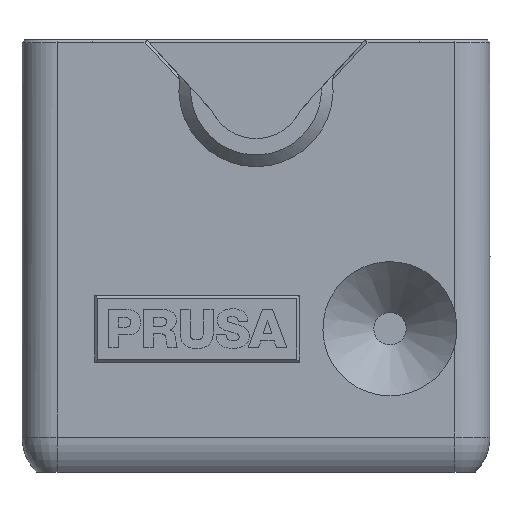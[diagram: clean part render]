
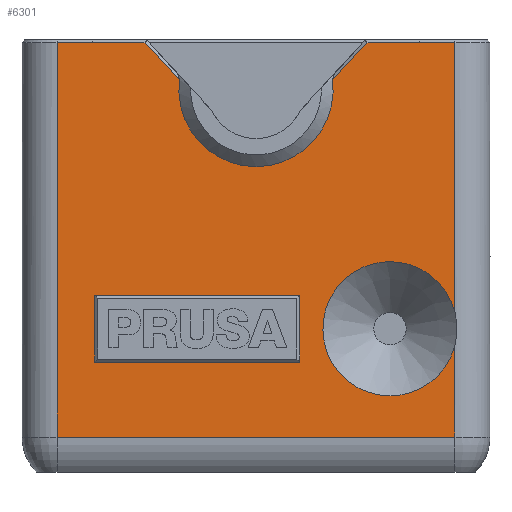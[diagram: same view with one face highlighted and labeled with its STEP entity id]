
A CAD part, front view. The second image highlights one B-rep face of the part: STEP entity #6301.
In plain terms, the highlighted planar face has unit normal (0, -1, 0).
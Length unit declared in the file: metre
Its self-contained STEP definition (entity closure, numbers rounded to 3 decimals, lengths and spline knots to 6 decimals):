
#256=PLANE('',#6766);
#522=CIRCLE('',#6767,0.005734);
#523=CIRCLE('',#6768,0.006596);
#1002=ORIENTED_EDGE('',*,*,#2828,.T.);
#1003=ORIENTED_EDGE('',*,*,#2829,.T.);
#1004=ORIENTED_EDGE('',*,*,#2830,.F.);
#1005=ORIENTED_EDGE('',*,*,#2831,.T.);
#1006=ORIENTED_EDGE('',*,*,#2832,.T.);
#1007=ORIENTED_EDGE('',*,*,#2833,.T.);
#1008=ORIENTED_EDGE('',*,*,#2834,.T.);
#1009=ORIENTED_EDGE('',*,*,#2835,.T.);
#1010=ORIENTED_EDGE('',*,*,#2836,.T.);
#1011=ORIENTED_EDGE('',*,*,#2837,.T.);
#1012=ORIENTED_EDGE('',*,*,#2838,.F.);
#1013=ORIENTED_EDGE('',*,*,#2839,.T.);
#1014=ORIENTED_EDGE('',*,*,#2840,.T.);
#1015=ORIENTED_EDGE('',*,*,#2841,.T.);
#1016=ORIENTED_EDGE('',*,*,#2842,.T.);
#1017=ORIENTED_EDGE('',*,*,#2843,.T.);
#2828=EDGE_CURVE('',#3710,#3711,#4278,.T.);
#2829=EDGE_CURVE('',#3711,#3712,#4279,.T.);
#2830=EDGE_CURVE('',#3713,#3712,#4280,.T.);
#2831=EDGE_CURVE('',#3713,#3714,#4281,.T.);
#2832=EDGE_CURVE('',#3714,#3715,#4282,.T.);
#2833=EDGE_CURVE('',#3715,#3716,#522,.T.);
#2834=EDGE_CURVE('',#3716,#3717,#4283,.T.);
#2835=EDGE_CURVE('',#3717,#3718,#4284,.T.);
#2836=EDGE_CURVE('',#3718,#3719,#4285,.T.);
#2837=EDGE_CURVE('',#3719,#3720,#4286,.T.);
#2838=EDGE_CURVE('',#3721,#3720,#523,.T.);
#2839=EDGE_CURVE('',#3721,#3710,#4287,.T.);
#2840=EDGE_CURVE('',#3722,#3723,#4288,.T.);
#2841=EDGE_CURVE('',#3723,#3724,#4289,.T.);
#2842=EDGE_CURVE('',#3724,#3725,#4290,.T.);
#2843=EDGE_CURVE('',#3725,#3722,#4291,.T.);
#3710=VERTEX_POINT('',#9488);
#3711=VERTEX_POINT('',#9489);
#3712=VERTEX_POINT('',#9491);
#3713=VERTEX_POINT('',#9493);
#3714=VERTEX_POINT('',#9495);
#3715=VERTEX_POINT('',#9497);
#3716=VERTEX_POINT('',#9499);
#3717=VERTEX_POINT('',#9501);
#3718=VERTEX_POINT('',#9503);
#3719=VERTEX_POINT('',#9505);
#3720=VERTEX_POINT('',#9507);
#3721=VERTEX_POINT('',#9509);
#3722=VERTEX_POINT('',#9512);
#3723=VERTEX_POINT('',#9513);
#3724=VERTEX_POINT('',#9515);
#3725=VERTEX_POINT('',#9517);
#4278=LINE('',#9487,#4970);
#4279=LINE('',#9490,#4971);
#4280=LINE('',#9492,#4972);
#4281=LINE('',#9494,#4973);
#4282=LINE('',#9496,#4974);
#4283=LINE('',#9500,#4975);
#4284=LINE('',#9502,#4976);
#4285=LINE('',#9504,#4977);
#4286=LINE('',#9506,#4978);
#4287=LINE('',#9510,#4979);
#4288=LINE('',#9511,#4980);
#4289=LINE('',#9514,#4981);
#4290=LINE('',#9516,#4982);
#4291=LINE('',#9518,#4983);
#4970=VECTOR('',#7649,1.);
#4971=VECTOR('',#7650,1.);
#4972=VECTOR('',#7651,1.);
#4973=VECTOR('',#7652,1.);
#4974=VECTOR('',#7653,1.);
#4975=VECTOR('',#7656,1.);
#4976=VECTOR('',#7657,1.);
#4977=VECTOR('',#7658,1.);
#4978=VECTOR('',#7659,1.);
#4979=VECTOR('',#7662,1.);
#4980=VECTOR('',#7663,1.);
#4981=VECTOR('',#7664,1.);
#4982=VECTOR('',#7665,1.);
#4983=VECTOR('',#7666,1.);
#5465=EDGE_LOOP('',(#1002,#1003,#1004,#1005,#1006,#1007,#1008,#1009,#1010,
#1011,#1012,#1013));
#5466=EDGE_LOOP('',(#1014,#1015,#1016,#1017));
#5862=FACE_BOUND('',#5465,.T.);
#5863=FACE_BOUND('',#5466,.T.);
#6301=ADVANCED_FACE('',(#5862,#5863),#256,.F.);
#6766=AXIS2_PLACEMENT_3D('',#9486,#7647,#7648);
#6767=AXIS2_PLACEMENT_3D('',#9498,#7654,#7655);
#6768=AXIS2_PLACEMENT_3D('',#9508,#7660,#7661);
#7647=DIRECTION('',(0.,1.,0.));
#7648=DIRECTION('',(0.,0.,1.));
#7649=DIRECTION('',(-1.,0.,0.));
#7650=DIRECTION('',(-1.,0.,0.));
#7651=DIRECTION('',(0.,0.,1.));
#7652=DIRECTION('',(1.,0.,0.));
#7653=DIRECTION('',(0.,0.,1.));
#7654=DIRECTION('',(0.,1.,0.));
#7655=DIRECTION('',(0.,0.,1.));
#7656=DIRECTION('',(0.,0.,1.));
#7657=DIRECTION('',(-1.,0.,0.));
#7658=DIRECTION('',(-1.,0.,0.));
#7659=DIRECTION('',(-0.679,0.,-0.734));
#7660=DIRECTION('',(0.,-1.,0.));
#7661=DIRECTION('',(0.,0.,-1.));
#7662=DIRECTION('',(-0.679,0.,0.734));
#7663=DIRECTION('',(1.,0.,0.));
#7664=DIRECTION('',(0.,0.,-1.));
#7665=DIRECTION('',(-1.,0.,0.));
#7666=DIRECTION('',(0.,0.,1.));
#9486=CARTESIAN_POINT('',(0.019,-0.0053,0.011));
#9487=CARTESIAN_POINT('',(0.019,-0.0053,0.015));
#9488=CARTESIAN_POINT('',(-0.009486,-0.0053,0.015));
#9489=CARTESIAN_POINT('',(-0.014,-0.0053,0.015));
#9490=CARTESIAN_POINT('',(0.019,-0.0053,0.015));
#9491=CARTESIAN_POINT('',(-0.017,-0.0053,0.015));
#9492=CARTESIAN_POINT('',(-0.017,-0.0053,-0.021716));
#9493=CARTESIAN_POINT('',(-0.017,-0.0053,-0.018704));
#9494=CARTESIAN_POINT('',(0.016,-0.0053,-0.018704));
#9495=CARTESIAN_POINT('',(0.017,-0.0053,-0.018704));
#9496=CARTESIAN_POINT('',(0.017,-0.0053,-0.021716));
#9497=CARTESIAN_POINT('',(0.017,-0.0053,-0.010892));
#9498=CARTESIAN_POINT('',(0.01145,-0.0053,-0.00945));
#9499=CARTESIAN_POINT('',(0.017,-0.0053,-0.008008));
#9500=CARTESIAN_POINT('',(0.017,-0.0053,-0.021716));
#9501=CARTESIAN_POINT('',(0.017,-0.0053,0.015));
#9502=CARTESIAN_POINT('',(0.019,-0.0053,0.015));
#9503=CARTESIAN_POINT('',(0.014,-0.0053,0.015));
#9504=CARTESIAN_POINT('',(0.019,-0.0053,0.015));
#9505=CARTESIAN_POINT('',(0.009486,-0.0053,0.015));
#9506=CARTESIAN_POINT('',(0.006681,-0.0053,0.011966));
#9507=CARTESIAN_POINT('',(0.006545,-0.0053,0.011819));
#9508=CARTESIAN_POINT('',(0.,-0.0053,0.011));
#9509=CARTESIAN_POINT('',(-0.006545,-0.0053,0.011819));
#9510=CARTESIAN_POINT('',(0.005636,-0.0053,-0.001356));
#9511=CARTESIAN_POINT('',(0.003487,-0.0053,-0.006603));
#9512=CARTESIAN_POINT('',(-0.013791,-0.0053,-0.006603));
#9513=CARTESIAN_POINT('',(0.003737,-0.0053,-0.006603));
#9514=CARTESIAN_POINT('',(0.003737,-0.0053,-0.012047));
#9515=CARTESIAN_POINT('',(0.003737,-0.0053,-0.012297));
#9516=CARTESIAN_POINT('',(-0.013541,-0.0053,-0.012297));
#9517=CARTESIAN_POINT('',(-0.013791,-0.0053,-0.012297));
#9518=CARTESIAN_POINT('',(-0.013791,-0.0053,-0.006853));
